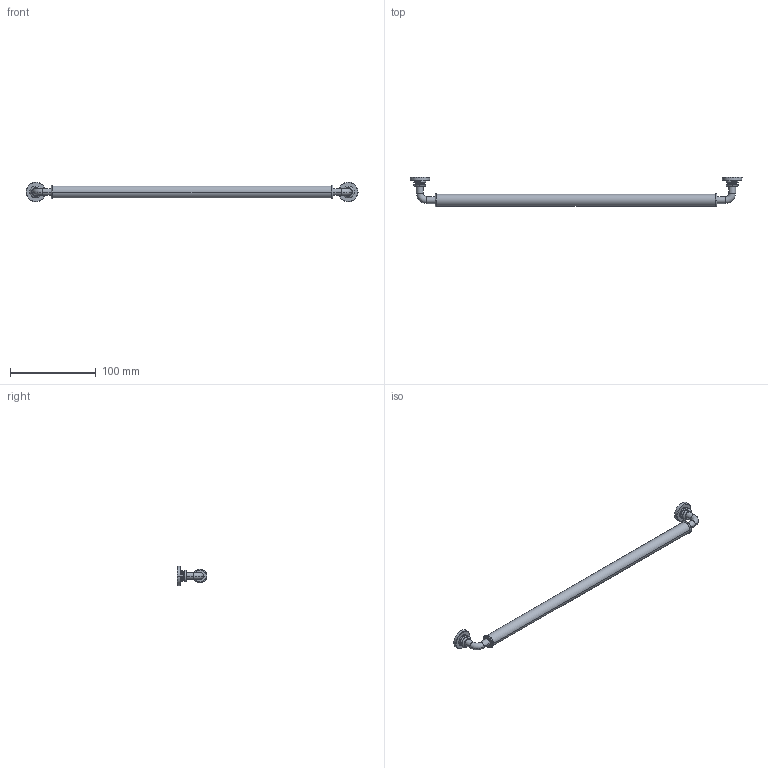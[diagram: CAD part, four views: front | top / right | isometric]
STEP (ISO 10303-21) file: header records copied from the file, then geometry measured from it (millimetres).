
FILE_DESCRIPTION( ( '' ), '1' );
FILE_NAME( 'D:/1.AUTOCAD EXPORT/Group 10/sheet_10_1/9132275.stp', '2013-10-21T06:39:42', ( '' ), ( '' ), ' ', ' ', ' ' );
FILE_SCHEMA( ( 'automotive_design' ) );
Length unit declared in the file: millimetre
Products named in the file (1): 1
Bounding box: 388 x 35 x 23 mm (x, y, z)
Volume: 58665.6 mm3; surface area: 19321.9 mm2
Topology: 1 solids, 1 shells, 95 faces, 230 edges, 141 vertices
Faces by surface type: torus 40, cone 24, cylinder 22, plane 9
Entity records: 5557 total; most frequent: DIRECTION 598, CARTESIAN_POINT 545, STYLED_ITEM 467, PRESENTATION_STYLE_ASSIGNMENT 467, COLOUR_RGB 467, ORIENTED_EDGE 460, AXIS2_PLACEMENT_3D 276, EDGE_CURVE 230
